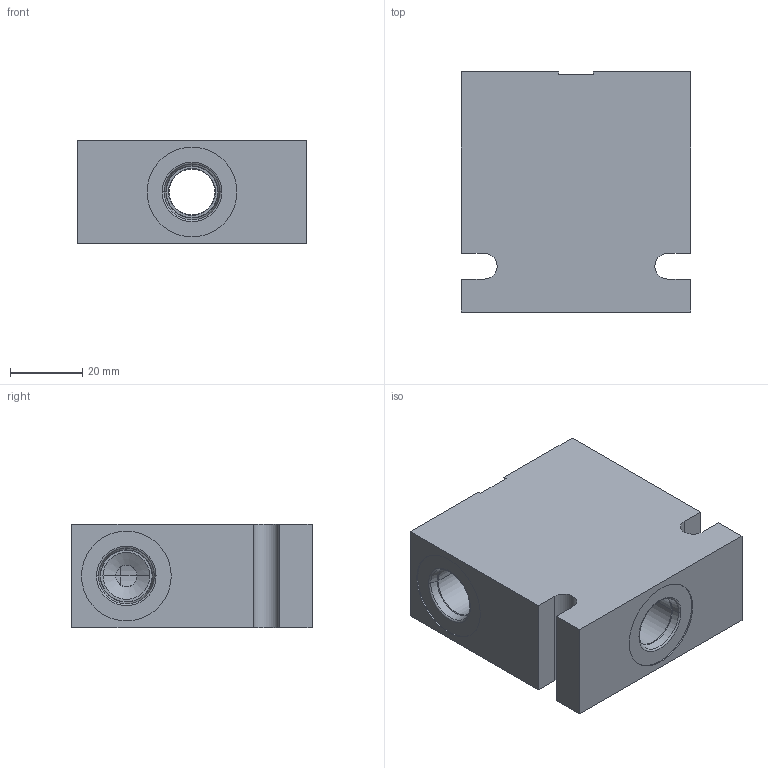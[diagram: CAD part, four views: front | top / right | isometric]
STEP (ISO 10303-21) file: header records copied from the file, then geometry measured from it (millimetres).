
FILE_DESCRIPTION((''),'2;1');
FILE_NAME('7024760','2007-11-12T',('KC2'),(''),'PRO/ENGINEER BY PARAMETRIC TECHNOLOGY CORPORATION, 2005310','PRO/ENGINEER BY PARAMETRIC TECHNOLOGY CORPORATION, 2005310','');
FILE_SCHEMA(('CONFIG_CONTROL_DESIGN'));
Length unit declared in the file: inch
Products named in the file (1): 7024760
Bounding box: 63.5 x 66.55 x 28.57 mm (x, y, z)
Volume: 97476 mm3; surface area: 20990.3 mm2
Topology: 1 solids, 1 shells, 93 faces, 209 edges, 122 vertices
Faces by surface type: cylinder 36, cone 24, plane 21, torus 12
Entity records: 2671 total; most frequent: DIRECTION 493, CARTESIAN_POINT 484, ORIENTED_EDGE 418, EDGE_CURVE 209, AXIS2_PLACEMENT_3D 197, VERTEX_POINT 122, CIRCLE 104, EDGE_LOOP 103
